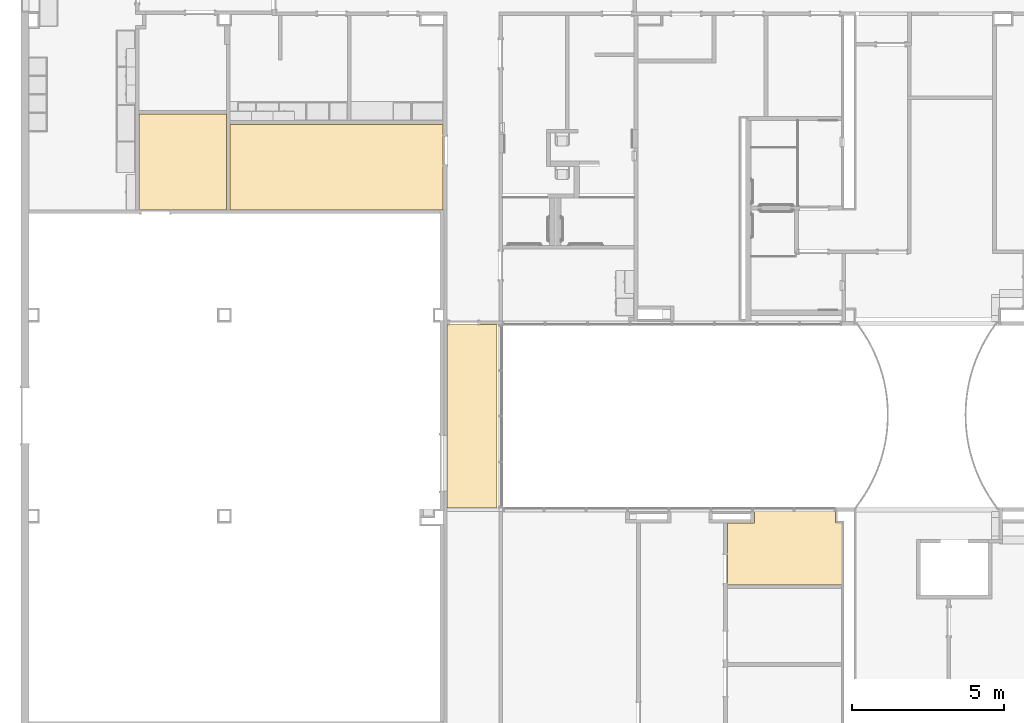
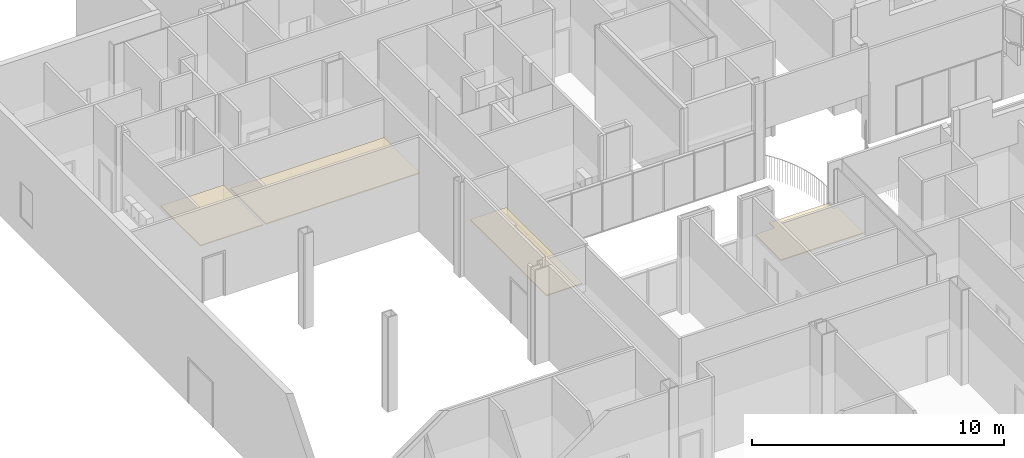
# One storey, part 26 of 45: 4 coverings.
"""IFC2X3 building model written with IfcOpenShell, lengths in metres."""

from ifc_helpers import new_model, entity, si_unit, converted_unit, frame, origin, place, context, project, spatial, face_set, surface_model, material, layer, layer_set, layer_usage, element, save


model = new_model("IFC2X3")

# Units and contexts
model_context = context("Model", 3, precision=1e-09, world=origin())
plan_context = context("Plan", 3, precision=1e-09, world=origin())
ifc_project = project(units=[si_unit("LENGTHUNIT", "METRE"), si_unit("AREAUNIT", "SQUARE_METRE"), si_unit("VOLUMEUNIT", "CUBIC_METRE"), converted_unit("PLANEANGLEUNIT", "DEGREE", entity("IfcRatioMeasure", 0.01745329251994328), si_unit("PLANEANGLEUNIT", "RADIAN"), dimensions=[0, 0, 0, 0, 0, 0, 0]), si_unit("TIMEUNIT", "SECOND")], contexts=[model_context, plan_context])

# Site, building, storey
site_placement = place(None, origin())
site = spatial("IfcSite", under=ifc_project, at=site_placement, Name="Default", CompositionType="ELEMENT")
building_placement = place(site_placement, origin())
building = spatial("IfcBuilding", under=site, at=building_placement, CompositionType="ELEMENT")
storey_placement = place(building_placement, frame((0.0, 0.0, 4.570000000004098)))
storey = spatial("IfcBuildingStorey", under=building, at=storey_placement, Name="Second Floor", CompositionType="ELEMENT", Elevation=4.570000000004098)

# Coverings
ifc_material_1 = material(Name="Default")
ifc_layer_1 = layer(ifc_material_1, 0.03599999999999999)
ifc_material_2 = material(Name="Ceiling Tile 600 x 600")
ifc_layer_2 = layer(ifc_material_2, 0.016)
ifc_layer_set = layer_set([ifc_layer_1, ifc_layer_2], Name="Compound Ceiling:ACT 600 x 600mm Grid")
ifc_layer_usage = layer_usage(ifc_layer_set, "AXIS3", "NEGATIVE", 0.0)
covering_1_placement = place(storey_placement, origin())
element("IfcCovering", 1, at=covering_1_placement, inside=storey, material=ifc_layer_usage, Name="Compound Ceiling:ACT 600 x 600mm Grid", ObjectType="Compound Ceiling:ACT 600 x 600mm Grid", PredefinedType="CEILING", context=model_context, shape_type="SurfaceModel", body=[
    surface_model("IfcFaceBasedSurfaceModel", [(-33.32000000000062, 34.73436288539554, 2.732000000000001), (-31.67500000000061, 34.73436288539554, 2.732000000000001), (-31.67500000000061, 28.68243871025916, 2.732000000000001), (-33.3200000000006, 28.68243871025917, 2.732000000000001), (-33.32000000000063, 29.24387433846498, 2.732000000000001), (-33.32000000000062, 31.07387433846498, 2.732000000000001), (-33.32000000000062, 34.73436288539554, 2.680000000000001), (-31.67500000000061, 34.73436288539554, 2.680000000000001), (-31.67500000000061, 28.68243871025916, 2.680000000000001), (-33.3200000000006, 28.68243871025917, 2.680000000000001), (-33.32000000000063, 29.24387433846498, 2.680000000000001), (-33.32000000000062, 31.07387433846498, 2.680000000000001)], [face_set([[[0, 1, 2, 3, 4, 5]], [[6, 7, 8, 9, 10, 11]], [[5, 11, 6, 0]], [[4, 10, 11, 5]], [[3, 9, 10, 4]], [[2, 3, 9, 8]], [[1, 2, 8, 7]], [[0, 6, 7, 1]]])]),
])
covering_2_placement = place(storey_placement, origin())
element("IfcCovering", 2, at=covering_2_placement, inside=storey, material=ifc_layer_usage, Name="Compound Ceiling:ACT 600 x 600mm Grid", ObjectType="Compound Ceiling:ACT 600 x 600mm Grid", PredefinedType="CEILING", context=model_context, shape_type="SurfaceModel", body=[
    surface_model("IfcFaceBasedSurfaceModel", [(-23.1815000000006, 28.18443871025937, 2.732000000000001), (-23.1815000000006, 28.6074387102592, 2.732000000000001), (-20.49500000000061, 28.60743871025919, 2.732000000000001), (-20.49500000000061, 28.18443871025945, 2.732000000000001), (-20.29000000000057, 28.18443871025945, 2.732000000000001), (-20.29000000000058, 26.14843871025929, 2.732000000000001), (-24.0710000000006, 26.1484387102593, 2.732000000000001), (-24.07100000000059, 28.18443871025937, 2.732000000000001), (-23.1815000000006, 28.18443871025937, 2.680000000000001), (-23.1815000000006, 28.6074387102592, 2.680000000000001), (-20.49500000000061, 28.60743871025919, 2.680000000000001), (-20.49500000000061, 28.18443871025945, 2.680000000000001), (-20.29000000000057, 28.18443871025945, 2.680000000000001), (-20.29000000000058, 26.14843871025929, 2.680000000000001), (-24.0710000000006, 26.1484387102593, 2.680000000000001), (-24.07100000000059, 28.18443871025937, 2.680000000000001)], [face_set([[[0, 1, 2, 3, 4, 5, 6, 7]], [[8, 9, 10, 11, 12, 13, 14, 15]], [[7, 15, 8, 0]], [[6, 14, 15, 7]], [[5, 6, 14, 13]], [[4, 5, 13, 12]], [[3, 11, 12, 4]], [[2, 3, 11, 10]], [[1, 9, 10, 2]], [[0, 8, 9, 1]]])]),
])
covering_3_placement = place(storey_placement, origin())
element("IfcCovering", 3, at=covering_3_placement, inside=storey, material=ifc_layer_usage, Name="Compound Ceiling:ACT 600 x 600mm Grid", ObjectType="Compound Ceiling:ACT 600 x 600mm Grid", PredefinedType="CEILING", context=model_context, shape_type="SurfaceModel", body=[
    surface_model("IfcFaceBasedSurfaceModel", [(-40.60000000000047, 41.67443871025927, 2.732000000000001), (-40.60000000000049, 38.51843871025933, 2.732000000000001), (-43.47600000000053, 38.51843871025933, 2.732000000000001), (-43.47600000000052, 41.67443871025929, 2.732000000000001), (-40.60000000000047, 41.67443871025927, 2.680000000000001), (-40.60000000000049, 38.51843871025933, 2.680000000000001), (-43.47600000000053, 38.51843871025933, 2.680000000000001), (-43.47600000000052, 41.67443871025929, 2.680000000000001)], [face_set([[[0, 1, 2, 3]], [[4, 5, 6, 7]], [[3, 7, 4, 0]], [[2, 6, 7, 3]], [[1, 2, 6, 5]], [[0, 1, 5, 4]]])]),
])
covering_4_placement = place(storey_placement, origin())
element("IfcCovering", 4, at=covering_4_placement, inside=storey, material=ifc_layer_usage, Name="Compound Ceiling:ACT 600 x 600mm Grid", ObjectType="Compound Ceiling:ACT 600 x 600mm Grid", PredefinedType="CEILING", context=model_context, shape_type="SurfaceModel", body=[
    surface_model("IfcFaceBasedSurfaceModel", [(-33.44400000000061, 38.5184387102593, 2.732000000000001), (-40.47600000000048, 38.51843871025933, 2.732000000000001), (-40.47600000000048, 41.33443871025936, 2.732000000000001), (-33.4440000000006, 41.33443871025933, 2.732000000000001), (-33.44400000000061, 38.5184387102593, 2.680000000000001), (-40.47600000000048, 38.51843871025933, 2.680000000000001), (-40.47600000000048, 41.33443871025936, 2.680000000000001), (-33.4440000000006, 41.33443871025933, 2.680000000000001)], [face_set([[[0, 1, 2, 3]], [[4, 5, 6, 7]], [[3, 0, 4, 7]], [[2, 6, 7, 3]], [[1, 5, 6, 2]], [[0, 1, 5, 4]]])]),
])

save(model, "model.ifc")
